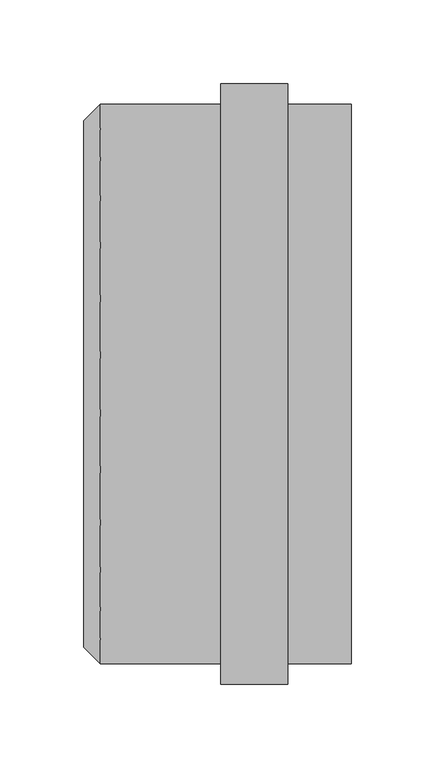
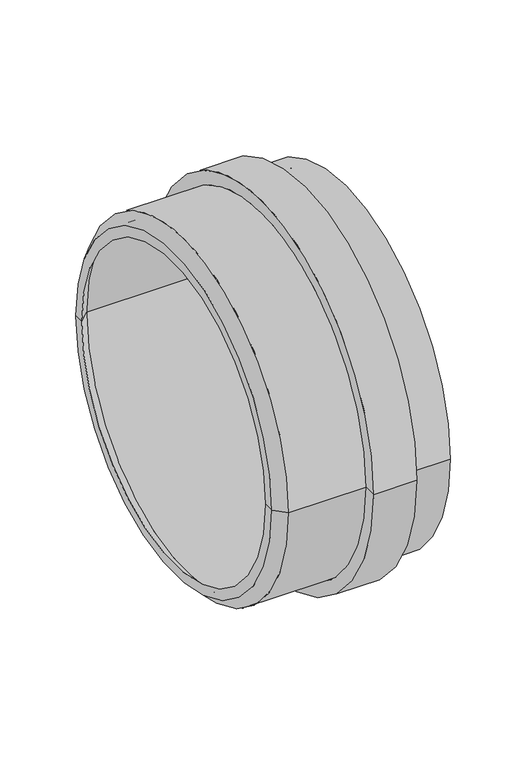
"""IFC4 building model written with IfcOpenShell, lengths in millimetres: pipe fitting geometry, OSMA_KG2000_Hrdlo : Hrdlo."""

from ifc_helpers import new_model, si_unit, frame, origin, place, context, project, spatial, polyline, circle_curve, source, transform, mapped, element, save
from ifc_brep_helpers import plane_surface, cylinder_surface, revolved_surface, advanced_brep


def pipe_fitting_6f7aa1f1(model_context):
    return source(origin(), model_context, "Body", "AdvancedBrep", [
        advanced_brep(
        [(77.0, -179.5, 0.0), (77.0, 179.5, 0.0), (117.0, 179.5, 0.0), (117.0, -179.5, 0.0), (77.0, -167.2, 0.0), (77.0, 167.2, 0.0), (5.0, -167.2, 0.0), (5.0, 167.2, 0.0), (-5.0, -157.5, 0.0), (-5.0, 157.5, 0.0), (-5.0, -147.8, 0.0), (-5.0, 147.8, 0.0), (5.0, -157.5, 0.0), (5.0, 157.5, 0.0), (155.0, -157.5, 0.0), (155.0, 157.5, 0.0), (155.0, -167.2, 0.0), (155.0, 167.2, 0.0), (117.0, -167.2, 0.0), (117.0, 167.2, 0.0)],
        [
            (0, 1, circle_curve(frame((77.0, 0.0, 0.0), z_axis=(1.0, 0.0, 0.0), x_axis=(0.0, 1.0, 0.0)), 179.5)),
            (1, 2),
            (2, 3, circle_curve(frame((117.0, 0.0, 0.0), z_axis=(-1.0, 0.0, 0.0), x_axis=(0.0, 1.0, 0.0)), 179.5)),
            (3, 0),
            (1, 0, circle_curve(frame((77.0, 0.0, 0.0), z_axis=(1.0, 0.0, 0.0), x_axis=(0.0, 1.0, 0.0)), 179.5)),
            (3, 2, circle_curve(frame((117.0, 0.0, 0.0), z_axis=(-1.0, 0.0, 0.0), x_axis=(0.0, 1.0, 0.0)), 179.5)),
            (4, 5, circle_curve(frame((77.0, 0.0, 0.0), z_axis=(1.0, 0.0, 0.0), x_axis=(0.0, 1.0, 0.0)), 167.2)),
            (5, 1),
            (0, 4),
            (5, 4, circle_curve(frame((77.0, 0.0, 0.0), z_axis=(1.0, 0.0, 0.0), x_axis=(0.0, 1.0, 0.0)), 167.2)),
            (6, 7, circle_curve(frame((5.0, 0.0, 0.0), z_axis=(1.0, 0.0, 0.0), x_axis=(0.0, 1.0, 0.0)), 167.2)),
            (7, 5),
            (4, 6),
            (7, 6, circle_curve(frame((5.0, 0.0, 0.0), z_axis=(1.0, 0.0, 0.0), x_axis=(0.0, 1.0, 0.0)), 167.2)),
            (8, 9, circle_curve(frame((-5.0, 0.0, 0.0), z_axis=(1.0, 0.0, 0.0), x_axis=(0.0, 1.0, 0.0)), 157.5)),
            (9, 7),
            (6, 8),
            (9, 8, circle_curve(frame((-5.0, 0.0, 0.0), z_axis=(1.0, 0.0, 0.0), x_axis=(0.0, 1.0, 0.0)), 157.5)),
            (10, 11, circle_curve(frame((-5.0, 0.0, 0.0), z_axis=(1.0, 0.0, 0.0), x_axis=(0.0, 1.0, 0.0)), 147.8)),
            (11, 9),
            (8, 10),
            (11, 10, circle_curve(frame((-5.0, 0.0, 0.0), z_axis=(1.0, 0.0, 0.0), x_axis=(0.0, 1.0, 0.0)), 147.8)),
            (12, 13, circle_curve(frame((5.0, 0.0, 0.0), z_axis=(1.0, 0.0, 0.0), x_axis=(0.0, 1.0, 0.0)), 157.5)),
            (13, 11),
            (10, 12),
            (13, 12, circle_curve(frame((5.0, 0.0, 0.0), z_axis=(1.0, 0.0, 0.0), x_axis=(0.0, 1.0, 0.0)), 157.5)),
            (14, 15, circle_curve(frame((155.0, 0.0, 0.0), z_axis=(1.0, 0.0, 0.0), x_axis=(0.0, 1.0, 0.0)), 157.5)),
            (15, 13),
            (12, 14),
            (15, 14, circle_curve(frame((155.0, 0.0, 0.0), z_axis=(1.0, 0.0, 0.0), x_axis=(0.0, 1.0, 0.0)), 157.5)),
            (16, 17, circle_curve(frame((155.0, 0.0, 0.0), z_axis=(1.0, 0.0, 0.0), x_axis=(0.0, 1.0, 0.0)), 167.2)),
            (17, 15),
            (14, 16),
            (17, 16, circle_curve(frame((155.0, 0.0, 0.0), z_axis=(1.0, 0.0, 0.0), x_axis=(0.0, 1.0, 0.0)), 167.2)),
            (18, 19, circle_curve(frame((117.0, 0.0, 0.0), z_axis=(1.0, 0.0, 0.0), x_axis=(0.0, 1.0, 0.0)), 167.2)),
            (19, 17),
            (16, 18),
            (19, 18, circle_curve(frame((117.0, 0.0, 0.0), z_axis=(1.0, 0.0, 0.0), x_axis=(0.0, 1.0, 0.0)), 167.2)),
            (2, 19),
            (18, 3),
        ],
        [
            cylinder_surface(frame((435.497004, 0.0, 0.0), z_axis=(-1.0, 0.0, 0.0), x_axis=(0.0, 1.0, 0.0)), 179.5),
            plane_surface(frame((77.0, 0.0, 0.0), z_axis=(-1.0, 0.0, 0.0), x_axis=(0.0, 1.0, 0.0))),
            cylinder_surface(frame((435.497004, 0.0, 0.0), z_axis=(-1.0, 0.0, 0.0), x_axis=(0.0, 1.0, 0.0)), 167.2),
            revolved_surface(polyline([(5.0, 167.2, 0.0), (-5.0, 157.5, 0.0)]), (435.497004, 0.0, 0.0), (-1.0, 0.0, 0.0)),
            plane_surface(frame((-5.0, 0.0, 0.0), z_axis=(-1.0, 0.0, 0.0), x_axis=(0.0, 1.0, 0.0))),
            revolved_surface(polyline([(-5.0, 147.8, 0.0), (5.0, 157.5, 0.0)]), (435.497004, 0.0, 0.0), (-1.0, 0.0, 0.0)),
            revolved_surface(polyline([(5.0, 157.5, 0.0), (155.0, 157.5, 0.0)]), (435.497004, 0.0, 0.0), (-1.0, 0.0, 0.0)),
            plane_surface(frame((155.0, 0.0, 0.0), z_axis=(1.0, 0.0, 0.0), x_axis=(0.0, 1.0, 0.0))),
            plane_surface(frame((117.0, 0.0, 0.0), z_axis=(1.0, 0.0, 0.0), x_axis=(0.0, 1.0, 0.0))),
        ],
        [
            (0, [[1, 2, 3, 4]]),
            (0, [[5, -4, 6, -2]]),
            (1, [[7, 8, -1, 9]]),
            (1, [[10, -9, -5, -8]]),
            (2, [[11, 12, -7, 13]]),
            (2, [[14, -13, -10, -12]]),
            (3, [[15, 16, -11, 17]]),
            (3, [[18, -17, -14, -16]]),
            (4, [[19, 20, -15, 21]]),
            (4, [[22, -21, -18, -20]]),
            (5, [[23, 24, -19, 25]]),
            (5, [[26, -25, -22, -24]]),
            (6, [[27, 28, -23, 29]]),
            (6, [[30, -29, -26, -28]]),
            (7, [[31, 32, -27, 33]]),
            (7, [[34, -33, -30, -32]]),
            (2, [[35, 36, -31, 37]]),
            (2, [[38, -37, -34, -36]]),
            (8, [[-3, 39, -35, 40]]),
            (8, [[-6, -40, -38, -39]]),
        ],
    ),
    ])


if __name__ == "__main__":
    model = new_model("IFC4")
    model_context = context("Model", 3, world=origin())
    ifc_project = project(units=[si_unit("LENGTHUNIT", "METRE", prefix="MILLI")], contexts=[model_context])
    site = spatial("IfcSite", under=ifc_project)
    building = spatial("IfcBuilding", under=site)
    placement = place(None, origin())
    pipe_fitting_shape = pipe_fitting_6f7aa1f1(model_context)
    element("IfcPipeFitting", 1, ObjectType="OSMA_KG2000_Hrdlo : Hrdlo", at=placement, inside=building, context=model_context, shape_type="MappedRepresentation", body=[
        mapped(pipe_fitting_shape, transform((0.0, 0.0, 0.0), x_axis=(1.0, 0.0, 0.0), y_axis=(0.0, 1.0, 0.0), z_axis=(0.0, 0.0, 1.0))),
    ])
    save(model, "model.ifc")
